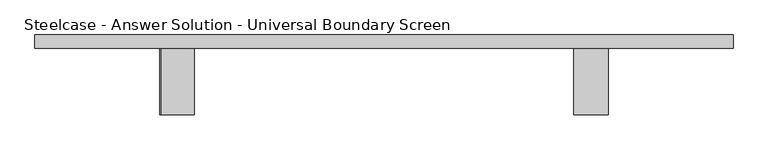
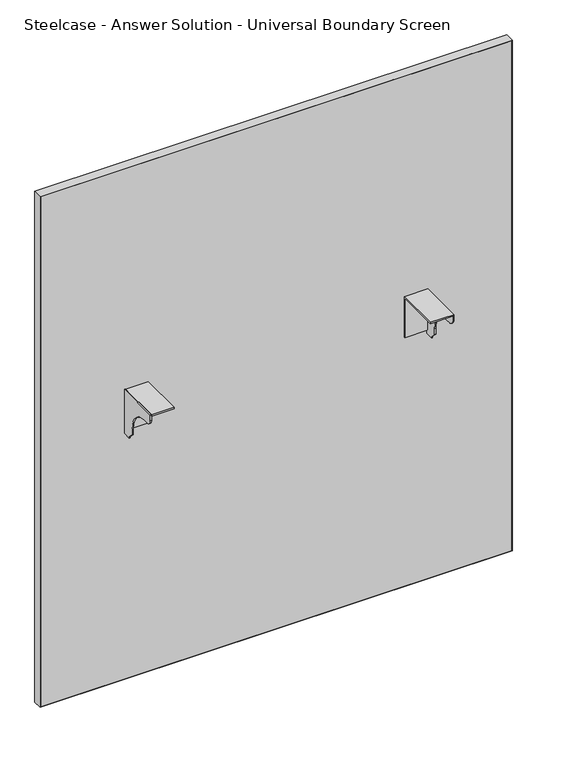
"""IFC4 building model written with IfcOpenShell, lengths in millimetres: furniture geometry, Steelcase - Answer Solution - Universal Boundary Screen : 48H x 42W."""

from ifc_helpers import new_model, si_unit, point, frame, frame_2d, origin, place, context, project, spatial, polyline, circle_curve, trimmed, segment, composite_curve, outline, extrude, source, transform, mapped, element, save


def steelcase_answer_solution_universal_boundary_screen_d0358412(model_context):
    return source(origin(), model_context, "Body", "SweptSolid", [
        extrude(outline(polyline([(-103.1670434, 689.3558876), (-103.1670434, 692.1499758), (-1.5668826, 692.1499758), (-1.5668826, 595.5029317), (-4.1079736, 595.5029317), (-4.1079736, 689.3558876), (-103.1670434, 689.3558876)])), frame((819.6336711, 0.0, 0.0), z_axis=(1.0, 0.0, 0.0), x_axis=(0.0, 1.0, 0.0)), (0.0, 0.0, 1.0), 53.3444116),
        extrude(outline(composite_curve([segment(polyline([(-103.1670434, 679.2814802), (-103.1670434, 692.1499758), (-1.5668826, 692.1499758), (-1.5668826, 586.9634093), (-19.8232934, 586.9634093), (-19.8232934, 589.7574248), (-32.0458032, 601.9799346), (-32.0458032, 615.7814802)]), True, "CONTINUOUS"), segment(trimmed(circle_curve(frame_2d((-82.8458032, 615.7814802)), 50.8), [point((-32.0458032, 615.7814802))], [point((-82.8458032, 666.5814802))], True, "CARTESIAN"), True, "CONTINUOUS"), segment(polyline([(-82.8458032, 666.5814802), (-90.4670434, 666.5814802)]), True, "CONTINUOUS"), segment(trimmed(circle_curve(frame_2d((-90.4670434, 679.2814802)), 12.7), [point((-90.4670434, 666.5814802))], [point((-103.1670434, 679.2814802))], False, "CARTESIAN"), True, "CONTINUOUS")], self_intersect=False)), frame((870.4328959, 0.0, 0.0), z_axis=(1.0, 0.0, 0.0), x_axis=(0.0, 1.0, 0.0)), (0.0, 0.0, 1.0), 2.5451868),
        extrude(outline(polyline([(-103.1670434, 689.3558876), (-103.1670434, 692.1499758), (-1.5668826, 692.1499758), (-1.5668826, 595.5029317), (-4.1079736, 595.5029317), (-4.1079736, 689.3558876), (-103.1670434, 689.3558876)])), frame((189.7232694, 0.0, 0.0), z_axis=(1.0, 0.0, 0.0), x_axis=(0.0, 1.0, 0.0)), (0.0, 0.0, 1.0), 50.7992249),
        extrude(outline(composite_curve([segment(polyline([(-103.1670434, 679.2814802), (-103.1670434, 692.1499758), (-1.5668826, 692.1499758), (-1.5668826, 586.9634093), (-19.8232934, 586.9634093), (-19.8232934, 589.7574248), (-32.0458032, 601.9799346), (-32.0458032, 615.7814802)]), True, "CONTINUOUS"), segment(trimmed(circle_curve(frame_2d((-82.8458032, 615.7814802)), 50.8), [point((-32.0458032, 615.7814802))], [point((-82.8458032, 666.5814802))], True, "CARTESIAN"), True, "CONTINUOUS"), segment(polyline([(-82.8458032, 666.5814802), (-90.4670434, 666.5814802)]), True, "CONTINUOUS"), segment(trimmed(circle_curve(frame_2d((-90.4670434, 679.2814802)), 12.7), [point((-90.4670434, 666.5814802))], [point((-103.1670434, 679.2814802))], False, "CARTESIAN"), True, "CONTINUOUS")], self_intersect=False)), frame((187.1780827, 0.0, 0.0), z_axis=(1.0, 0.0, 0.0), x_axis=(0.0, 1.0, 0.0)), (0.0, 0.0, 1.0), 2.5451868),
        extrude(outline(polyline([(-2.3293422, 18.9055112), (1062.4855076, 18.9055112), (1062.4855076, -1.5668826), (-2.3293422, -1.5668826), (-2.3293422, 18.9055112)])), frame((0.0, 0.0, 1.016), z_axis=(0.0, 0.0, 1.0), x_axis=(1.0, 0.0, 0.0)), (0.0, 0.0, 1.0), 1217.1914249),
        extrude(outline(polyline([(1219.2, 1063.4780827), (1219.2, -3.3219173), (0.0, -3.3219173), (0.0, 1063.4780827), (1219.2, 1063.4780827)]), holes=[polyline([(1218.2074249, 1062.4855076), (1.016, 1062.4855076), (1.016, -2.3293422), (1218.2074249, -2.3293422), (1218.2074249, 1062.4855076)])]), frame((0.0, -1.5668826, 0.0), z_axis=(0.0, 1.0, 0.0), x_axis=(0.0, 0.0, 1.0)), (0.0, 0.0, 1.0), 20.4723938),
    ])


if __name__ == "__main__":
    model = new_model("IFC4")
    model_context = context("Model", 3, world=origin())
    ifc_project = project(units=[si_unit("LENGTHUNIT", "METRE", prefix="MILLI")], contexts=[model_context])
    site = spatial("IfcSite", under=ifc_project)
    building = spatial("IfcBuilding", under=site)
    placement = place(None, origin())
    steelcase_answer_solution_universal_boundary_screen_shape = steelcase_answer_solution_universal_boundary_screen_d0358412(model_context)
    element("IfcFurniture", 1, ObjectType="Steelcase - Answer Solution - Universal Boundary Screen : 48H x 42W", at=placement, inside=building, context=model_context, shape_type="MappedRepresentation", body=[
        mapped(steelcase_answer_solution_universal_boundary_screen_shape, transform((0.0, 0.0, 0.0), x_axis=(1.0, 0.0, 0.0), y_axis=(0.0, 1.0, 0.0), z_axis=(0.0, 0.0, 1.0))),
    ])
    save(model, "model.ifc")
